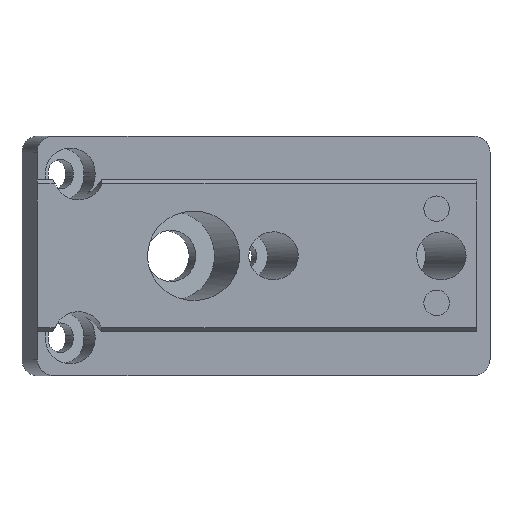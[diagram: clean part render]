
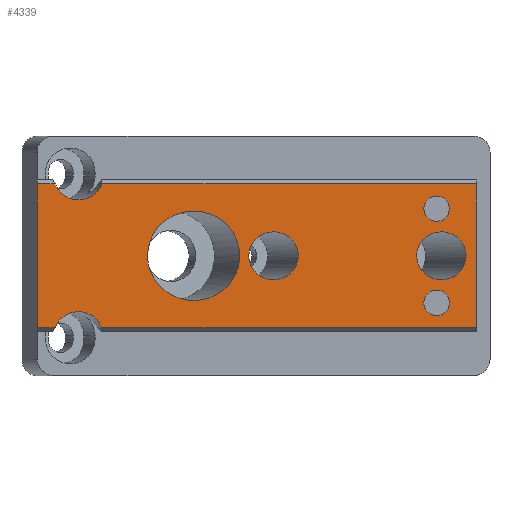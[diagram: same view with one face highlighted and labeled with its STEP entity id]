
A CAD part, top view. The second image highlights one B-rep face of the part: STEP entity #4339.
In plain terms, the highlighted planar face has unit normal (0, 0, 1).
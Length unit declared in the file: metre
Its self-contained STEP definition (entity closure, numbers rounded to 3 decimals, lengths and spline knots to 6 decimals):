
#102=ELLIPSE('',#4615,0.005771,0.0056);
#103=ELLIPSE('',#4616,0.003092,0.003);
#104=ELLIPSE('',#4617,0.003092,0.003);
#105=ELLIPSE('',#4620,0.003092,0.003);
#106=ELLIPSE('',#4621,0.003092,0.003);
#186=CIRCLE('',#4618,0.0016);
#187=CIRCLE('',#4619,0.0016);
#281=ORIENTED_EDGE('',*,*,#1575,.T.);
#282=ORIENTED_EDGE('',*,*,#1576,.T.);
#283=ORIENTED_EDGE('',*,*,#1577,.T.);
#284=ORIENTED_EDGE('',*,*,#1578,.T.);
#285=ORIENTED_EDGE('',*,*,#1579,.T.);
#286=ORIENTED_EDGE('',*,*,#1580,.F.);
#287=ORIENTED_EDGE('',*,*,#1581,.T.);
#288=ORIENTED_EDGE('',*,*,#1582,.F.);
#289=ORIENTED_EDGE('',*,*,#1583,.T.);
#290=ORIENTED_EDGE('',*,*,#1584,.F.);
#291=ORIENTED_EDGE('',*,*,#1585,.T.);
#292=ORIENTED_EDGE('',*,*,#1586,.T.);
#293=ORIENTED_EDGE('',*,*,#1587,.T.);
#1575=EDGE_CURVE('',#2222,#2222,#102,.T.);
#1576=EDGE_CURVE('',#2223,#2223,#103,.T.);
#1577=EDGE_CURVE('',#2224,#2224,#104,.T.);
#1578=EDGE_CURVE('',#2225,#2225,#186,.T.);
#1579=EDGE_CURVE('',#2226,#2226,#187,.T.);
#1580=EDGE_CURVE('',#2227,#2228,#105,.F.);
#1581=EDGE_CURVE('',#2227,#2229,#2639,.T.);
#1582=EDGE_CURVE('',#2230,#2229,#2640,.T.);
#1583=EDGE_CURVE('',#2230,#2231,#2641,.T.);
#1584=EDGE_CURVE('',#2232,#2231,#106,.F.);
#1585=EDGE_CURVE('',#2232,#2233,#2642,.T.);
#1586=EDGE_CURVE('',#2233,#2234,#2643,.T.);
#1587=EDGE_CURVE('',#2234,#2228,#2644,.T.);
#2222=VERTEX_POINT('',#6100);
#2223=VERTEX_POINT('',#6102);
#2224=VERTEX_POINT('',#6104);
#2225=VERTEX_POINT('',#6106);
#2226=VERTEX_POINT('',#6108);
#2227=VERTEX_POINT('',#6110);
#2228=VERTEX_POINT('',#6111);
#2229=VERTEX_POINT('',#6113);
#2230=VERTEX_POINT('',#6115);
#2231=VERTEX_POINT('',#6117);
#2232=VERTEX_POINT('',#6119);
#2233=VERTEX_POINT('',#6121);
#2234=VERTEX_POINT('',#6123);
#2639=LINE('',#6112,#3130);
#2640=LINE('',#6114,#3131);
#2641=LINE('',#6116,#3132);
#2642=LINE('',#6120,#3133);
#2643=LINE('',#6122,#3134);
#2644=LINE('',#6124,#3135);
#3130=VECTOR('',#4983,1.);
#3131=VECTOR('',#4984,1.);
#3132=VECTOR('',#4985,1.);
#3133=VECTOR('',#4988,1.);
#3134=VECTOR('',#4989,1.);
#3135=VECTOR('',#4990,1.);
#3608=EDGE_LOOP('',(#281));
#3609=EDGE_LOOP('',(#282));
#3610=EDGE_LOOP('',(#283));
#3611=EDGE_LOOP('',(#284));
#3612=EDGE_LOOP('',(#285));
#3613=EDGE_LOOP('',(#286,#287,#288,#289,#290,#291,#292,#293));
#3891=FACE_BOUND('',#3608,.T.);
#3892=FACE_BOUND('',#3609,.T.);
#3893=FACE_BOUND('',#3610,.T.);
#3894=FACE_BOUND('',#3611,.T.);
#3895=FACE_BOUND('',#3612,.T.);
#3896=FACE_BOUND('',#3613,.T.);
#4166=PLANE('',#4614);
#4339=ADVANCED_FACE('',(#3891,#3892,#3893,#3894,#3895,#3896),#4166,.F.);
#4614=AXIS2_PLACEMENT_3D('',#6098,#4969,#4970);
#4615=AXIS2_PLACEMENT_3D('',#6099,#4971,#4972);
#4616=AXIS2_PLACEMENT_3D('',#6101,#4973,#4974);
#4617=AXIS2_PLACEMENT_3D('',#6103,#4975,#4976);
#4618=AXIS2_PLACEMENT_3D('',#6105,#4977,#4978);
#4619=AXIS2_PLACEMENT_3D('',#6107,#4979,#4980);
#4620=AXIS2_PLACEMENT_3D('',#6109,#4981,#4982);
#4621=AXIS2_PLACEMENT_3D('',#6118,#4986,#4987);
#4969=DIRECTION('',(0.,0.,-1.));
#4970=DIRECTION('',(-1.,0.,0.));
#4971=DIRECTION('',(0.,0.,-1.));
#4972=DIRECTION('',(-1.,0.,0.));
#4973=DIRECTION('',(0.,0.,-1.));
#4974=DIRECTION('',(-1.,0.,0.));
#4975=DIRECTION('',(0.,0.,-1.));
#4976=DIRECTION('',(-1.,0.,0.));
#4977=DIRECTION('',(0.,0.,-1.));
#4978=DIRECTION('',(-1.,0.,0.));
#4979=DIRECTION('',(0.,0.,-1.));
#4980=DIRECTION('',(-1.,0.,0.));
#4981=DIRECTION('',(0.,0.,-1.));
#4982=DIRECTION('',(-1.,0.,0.));
#4983=DIRECTION('',(1.,0.,0.));
#4984=DIRECTION('',(0.,-1.,0.));
#4985=DIRECTION('',(-1.,0.,0.));
#4986=DIRECTION('',(0.,0.,-1.));
#4987=DIRECTION('',(-1.,0.,0.));
#4988=DIRECTION('',(-1.,0.,0.));
#4989=DIRECTION('',(0.,-1.,0.));
#4990=DIRECTION('',(1.,0.,0.));
#6098=CARTESIAN_POINT('',(0.055,0.,0.0041));
#6099=CARTESIAN_POINT('',(0.019573,0.,0.0041));
#6100=CARTESIAN_POINT('',(0.013802,0.,0.0041));
#6101=CARTESIAN_POINT('',(0.050595,0.,0.0041));
#6102=CARTESIAN_POINT('',(0.047503,0.,0.0041));
#6103=CARTESIAN_POINT('',(0.02957,0.,0.0041));
#6104=CARTESIAN_POINT('',(0.026478,0.,0.0041));
#6105=CARTESIAN_POINT('',(0.05,0.0059,0.0041));
#6106=CARTESIAN_POINT('',(0.0484,0.0059,0.0041));
#6107=CARTESIAN_POINT('',(0.05,-0.0059,0.0041));
#6108=CARTESIAN_POINT('',(0.0484,-0.0059,0.0041));
#6109=CARTESIAN_POINT('',(0.005145,-0.01,0.0041));
#6110=CARTESIAN_POINT('',(0.008061,-0.009004,0.0041));
#6111=CARTESIAN_POINT('',(0.002228,-0.009004,0.0041));
#6112=CARTESIAN_POINT('',(0.055,-0.009004,0.0041));
#6113=CARTESIAN_POINT('',(0.055,-0.009004,0.0041));
#6114=CARTESIAN_POINT('',(0.055,0.,0.0041));
#6115=CARTESIAN_POINT('',(0.055,0.009004,0.0041));
#6116=CARTESIAN_POINT('',(0.,0.009004,0.0041));
#6117=CARTESIAN_POINT('',(0.008061,0.009004,0.0041));
#6118=CARTESIAN_POINT('',(0.005145,0.01,0.0041));
#6119=CARTESIAN_POINT('',(0.002228,0.009004,0.0041));
#6120=CARTESIAN_POINT('',(0.,0.009004,0.0041));
#6121=CARTESIAN_POINT('',(0.,0.009004,0.0041));
#6122=CARTESIAN_POINT('',(0.,0.,0.0041));
#6123=CARTESIAN_POINT('',(0.,-0.009004,0.0041));
#6124=CARTESIAN_POINT('',(0.055,-0.009004,0.0041));
